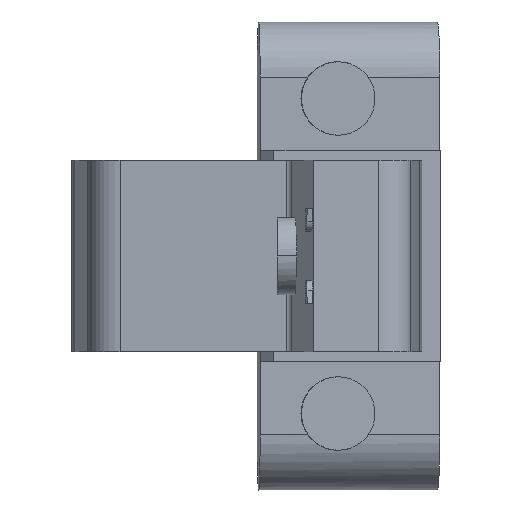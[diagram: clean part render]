
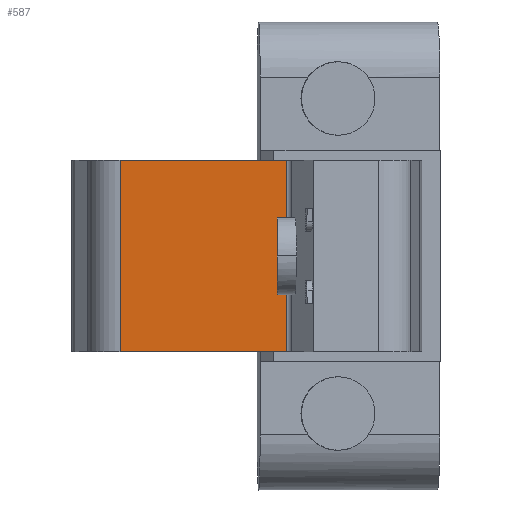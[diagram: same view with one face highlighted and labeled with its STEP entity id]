
A CAD part, left-side view. The second image highlights one B-rep face of the part: STEP entity #587.
In plain terms, the highlighted planar face has unit normal (-1, 0.033, 0).
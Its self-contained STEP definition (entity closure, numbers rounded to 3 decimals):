
#36 = CARTESIAN_POINT ( 'NONE',  ( -29.78, 2.72, -6.7 ) ) ;
#113 = ORIENTED_EDGE ( 'NONE', *, *, #1496, .F. ) ;
#127 = DIRECTION ( 'NONE',  ( 0., 0., 1. ) ) ;
#162 = CARTESIAN_POINT ( 'NONE',  ( -29.298, 16.513, 6.7 ) ) ;
#163 = CARTESIAN_POINT ( 'NONE',  ( -29.298, 17.506, 8.5 ) ) ;
#178 = ORIENTED_EDGE ( 'NONE', *, *, #936, .F. ) ;
#200 = LINE ( 'NONE', #2239, #1389 ) ;
#254 = VERTEX_POINT ( 'NONE', #750 ) ;
#360 = CARTESIAN_POINT ( 'NONE',  ( -29.78, 2.721, 6.7 ) ) ;
#364 = LINE ( 'NONE', #162, #2154 ) ;
#413 = DIRECTION ( 'NONE',  ( 0.035, 0.999, 0. ) ) ;
#439 = DIRECTION ( 'NONE',  ( 0., 0., 1. ) ) ;
#518 = DIRECTION ( 'NONE',  ( -0.035, -0.999, 0. ) ) ;
#527 = VECTOR ( 'NONE', #2230, 1000. ) ;
#554 = DIRECTION ( 'NONE',  ( -0.033, -0.999, 0. ) ) ;
#587 = ADVANCED_FACE ( 'NONE', ( #2960 ), #1314, .T. ) ;
#717 = LINE ( 'NONE', #998, #2696 ) ;
#750 = CARTESIAN_POINT ( 'NONE',  ( -29.78, 2.72, 6.7 ) ) ;
#787 = CARTESIAN_POINT ( 'NONE',  ( -29.78, 2.72, 8.5 ) ) ;
#793 = VERTEX_POINT ( 'NONE', #1944 ) ;
#886 = VERTEX_POINT ( 'NONE', #1024 ) ;
#909 = VECTOR ( 'NONE', #2704, 1000. ) ;
#936 = EDGE_CURVE ( 'NONE', #1049, #1884, #2864, .T. ) ;
#998 = CARTESIAN_POINT ( 'NONE',  ( -29.298, 16.513, -6.7 ) ) ;
#1024 = CARTESIAN_POINT ( 'NONE',  ( -29.298, 17.506, -8.5 ) ) ;
#1049 = VERTEX_POINT ( 'NONE', #163 ) ;
#1121 = CARTESIAN_POINT ( 'NONE',  ( -29.78, 2.72, 8.5 ) ) ;
#1136 = VERTEX_POINT ( 'NONE', #36 ) ;
#1314 = PLANE ( 'NONE',  #2244 ) ;
#1389 = VECTOR ( 'NONE', #439, 1000. ) ;
#1431 = ORIENTED_EDGE ( 'NONE', *, *, #2408, .T. ) ;
#1496 = EDGE_CURVE ( 'NONE', #254, #2904, #364, .T. ) ;
#1574 = ORIENTED_EDGE ( 'NONE', *, *, #1586, .F. ) ;
#1586 = EDGE_CURVE ( 'NONE', #793, #1136, #717, .T. ) ;
#1624 = CARTESIAN_POINT ( 'NONE',  ( -29.78, 2.72, 8.502 ) ) ;
#1641 = VERTEX_POINT ( 'NONE', #2611 ) ;
#1733 = CARTESIAN_POINT ( 'NONE',  ( -29.298, 17.506, -44.14 ) ) ;
#1775 = LINE ( 'NONE', #2959, #909 ) ;
#1800 = LINE ( 'NONE', #1624, #527 ) ;
#1804 = EDGE_CURVE ( 'NONE', #886, #1049, #2211, .T. ) ;
#1809 = ORIENTED_EDGE ( 'NONE', *, *, #2989, .T. ) ;
#1874 = ORIENTED_EDGE ( 'NONE', *, *, #2630, .F. ) ;
#1884 = VERTEX_POINT ( 'NONE', #1121 ) ;
#1904 = VECTOR ( 'NONE', #127, 1000. ) ;
#1944 = CARTESIAN_POINT ( 'NONE',  ( -29.78, 2.721, -6.7 ) ) ;
#1958 = EDGE_CURVE ( 'NONE', #793, #2904, #200, .T. ) ;
#1990 = CARTESIAN_POINT ( 'NONE',  ( -29.298, 17.506, -44.14 ) ) ;
#2057 = DIRECTION ( 'NONE',  ( -0.033, -0.999, 0. ) ) ;
#2062 = DIRECTION ( 'NONE',  ( -0.033, -0.999, 0. ) ) ;
#2154 = VECTOR ( 'NONE', #413, 1000. ) ;
#2211 = LINE ( 'NONE', #1733, #1904 ) ;
#2226 = CARTESIAN_POINT ( 'NONE',  ( -29.78, 2.72, -8.5 ) ) ;
#2230 = DIRECTION ( 'NONE',  ( 0., 0., -1. ) ) ;
#2239 = CARTESIAN_POINT ( 'NONE',  ( -29.78, 2.721, -44.14 ) ) ;
#2244 = AXIS2_PLACEMENT_3D ( 'NONE', #1990, #2927, #2057 ) ;
#2267 = EDGE_LOOP ( 'NONE', ( #2858, #1809, #1874, #1574, #2460, #113, #1431, #178 ) ) ;
#2278 = LINE ( 'NONE', #2226, #2796 ) ;
#2300 = VECTOR ( 'NONE', #554, 1000. ) ;
#2408 = EDGE_CURVE ( 'NONE', #254, #1884, #1775, .T. ) ;
#2460 = ORIENTED_EDGE ( 'NONE', *, *, #1958, .T. ) ;
#2611 = CARTESIAN_POINT ( 'NONE',  ( -29.78, 2.72, -8.5 ) ) ;
#2630 = EDGE_CURVE ( 'NONE', #1136, #1641, #1800, .T. ) ;
#2696 = VECTOR ( 'NONE', #518, 1000. ) ;
#2704 = DIRECTION ( 'NONE',  ( 0., 0., 1. ) ) ;
#2796 = VECTOR ( 'NONE', #2062, 1000. ) ;
#2858 = ORIENTED_EDGE ( 'NONE', *, *, #1804, .F. ) ;
#2864 = LINE ( 'NONE', #787, #2300 ) ;
#2904 = VERTEX_POINT ( 'NONE', #360 ) ;
#2927 = DIRECTION ( 'NONE',  ( -0.999, 0.033, 0. ) ) ;
#2959 = CARTESIAN_POINT ( 'NONE',  ( -29.78, 2.72, -8.502 ) ) ;
#2960 = FACE_OUTER_BOUND ( 'NONE', #2267, .T. ) ;
#2989 = EDGE_CURVE ( 'NONE', #886, #1641, #2278, .T. ) ;
